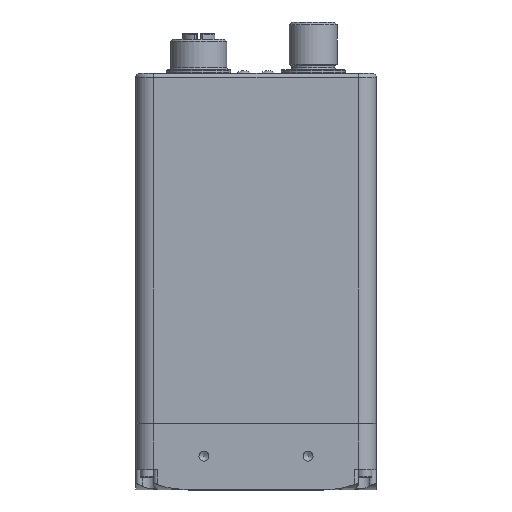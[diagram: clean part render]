
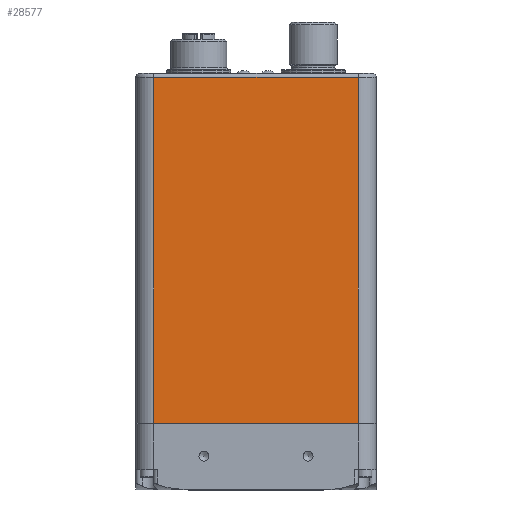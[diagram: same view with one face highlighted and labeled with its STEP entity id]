
A CAD part, top view. The second image highlights one B-rep face of the part: STEP entity #28577.
In plain terms, the highlighted planar face has unit normal (0, 0, 1).
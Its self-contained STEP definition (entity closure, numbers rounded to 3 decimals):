
#999=LINE('',#37581,#2090);
#1640=LINE('',#45914,#2731);
#1648=LINE('',#45954,#2739);
#1649=LINE('',#45956,#2740);
#2090=VECTOR('',#31561,1000.);
#2731=VECTOR('',#35288,1000.);
#2739=VECTOR('',#35338,1000.);
#2740=VECTOR('',#35341,1000.);
#6064=ORIENTED_EDGE('',*,*,#9703,.F.);
#6065=ORIENTED_EDGE('',*,*,#9681,.T.);
#6066=ORIENTED_EDGE('',*,*,#9702,.T.);
#6067=ORIENTED_EDGE('',*,*,#8138,.T.);
#8138=EDGE_CURVE('',#10616,#10615,#999,.T.);
#9681=EDGE_CURVE('',#11779,#11780,#1640,.F.);
#9702=EDGE_CURVE('',#11780,#10616,#1648,.T.);
#9703=EDGE_CURVE('',#11779,#10615,#1649,.T.);
#10615=VERTEX_POINT('',#37580);
#10616=VERTEX_POINT('',#37582);
#11779=VERTEX_POINT('',#45907);
#11780=VERTEX_POINT('',#45912);
#14818=EDGE_LOOP('',(#6064,#6065,#6066,#6067));
#16854=FACE_BOUND('',#14818,.T.);
#18107=PLANE('',#30654);
#28577=ADVANCED_FACE('',(#16854),#18107,.F.);
#30654=AXIS2_PLACEMENT_3D('',#45955,#35339,#35340);
#31561=DIRECTION('',(1.,0.,0.));
#35288=DIRECTION('',(1.,0.,0.));
#35338=DIRECTION('',(0.,-1.,0.));
#35339=DIRECTION('',(0.,0.,-1.));
#35340=DIRECTION('',(0.,1.,0.));
#35341=DIRECTION('',(0.,-1.,0.));
#37580=CARTESIAN_POINT('',(25.487,0.505,29.988));
#37581=CARTESIAN_POINT('',(-25.488,0.505,29.988));
#37582=CARTESIAN_POINT('',(-25.488,0.505,29.988));
#45907=CARTESIAN_POINT('',(25.487,86.805,29.988));
#45912=CARTESIAN_POINT('',(-25.488,86.805,29.988));
#45914=CARTESIAN_POINT('',(-25.488,86.805,29.988));
#45954=CARTESIAN_POINT('',(-25.488,87.805,29.988));
#45955=CARTESIAN_POINT('',(-25.488,87.805,29.988));
#45956=CARTESIAN_POINT('',(25.487,87.805,29.988));
